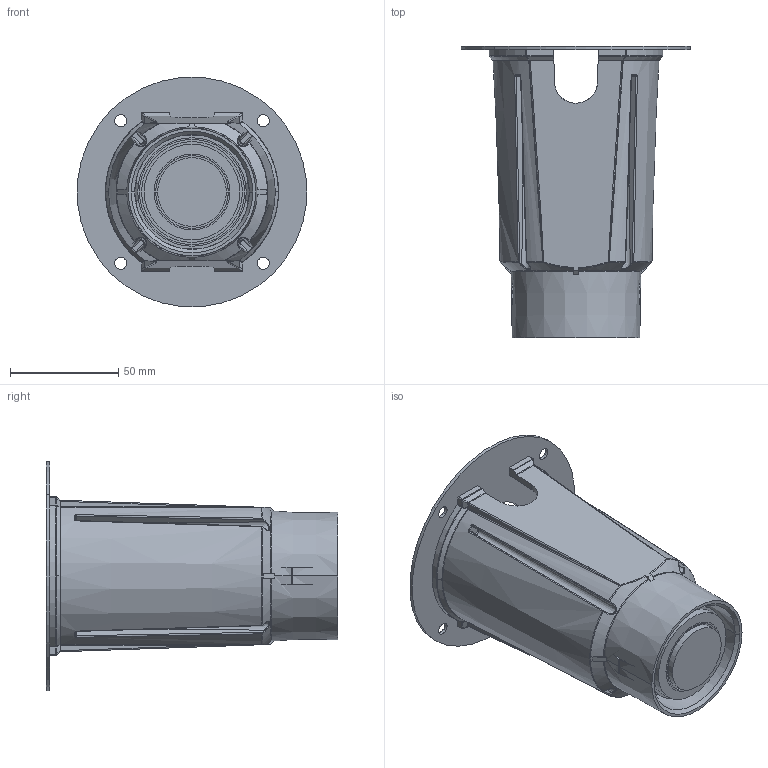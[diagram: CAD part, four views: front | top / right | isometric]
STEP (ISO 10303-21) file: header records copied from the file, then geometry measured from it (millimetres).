
FILE_DESCRIPTION((''),'2;1');
FILE_NAME('00-R2IR0125-065000_ASM','2024-08-30T14:51:36',('C029'),(''),'CREO PARAMETRIC BY PTC INC, 2021063','CREO PARAMETRIC BY PTC INC, 2021063','');
FILE_SCHEMA(('CONFIG_CONTROL_DESIGN'));
Products named in the file (17): 2I__2; HOUGAI_2; KAHUANG_2; MUZUHE_2; 12A_1_114_2; PRT0001_2; 2I-0_2; 0-RING_2; 2I-1_2; YATAO_2; BOLI-0_2; R7_2; ASM0001_ASM_2_ASM; 184_2IR-C000; 184-DIGAI; 184000_ASM; 00-R2IR0125-065000_ASM
Assembly tree (16 placements, depth 3):
  00-R2IR0125-065000_ASM
    ASM0001_ASM_2_ASM
      2I__2
      HOUGAI_2
      KAHUANG_2
      MUZUHE_2
      12A_1_114_2
      PRT0001_2
      2I-0_2
      0-RING_2
      2I-1_2
      YATAO_2
      BOLI-0_2
      R7_2
    184000_ASM
      184_2IR-C000
      184-DIGAI
Bounding box: 105.6 x 134.2 x 105.6 mm (x, y, z)
Volume: 185006.5 mm3; surface area: 137085.6 mm2
Topology: 14 solids, 14 shells, 1131 faces, 2829 edges, 1684 vertices
Faces by surface type: plane 443, cylinder 338, bspline 104, sphere 92, cone 88, torus 66
Entity records: 39056 total; most frequent: CARTESIAN_POINT 13587, ORIENTED_EDGE 5474, DIRECTION 4937, EDGE_CURVE 2737, AXIS2_PLACEMENT_3D 1996, VERTEX_POINT 1684, EDGE_LOOP 1231, FACE_OUTER_BOUND 1131
